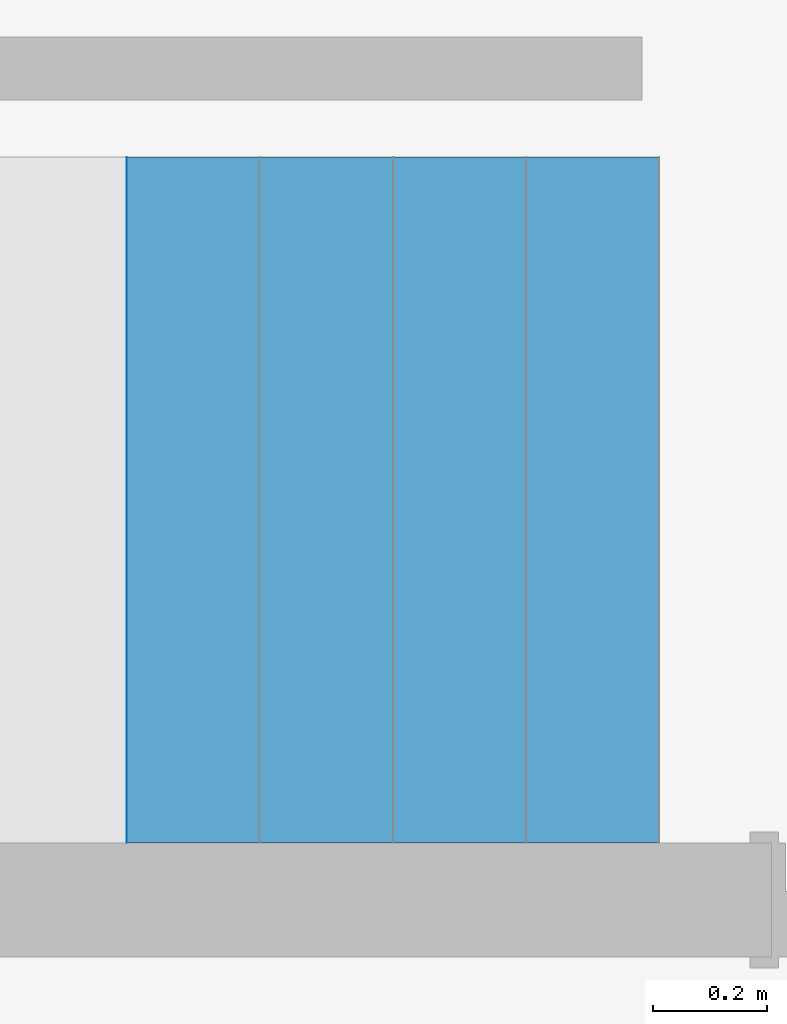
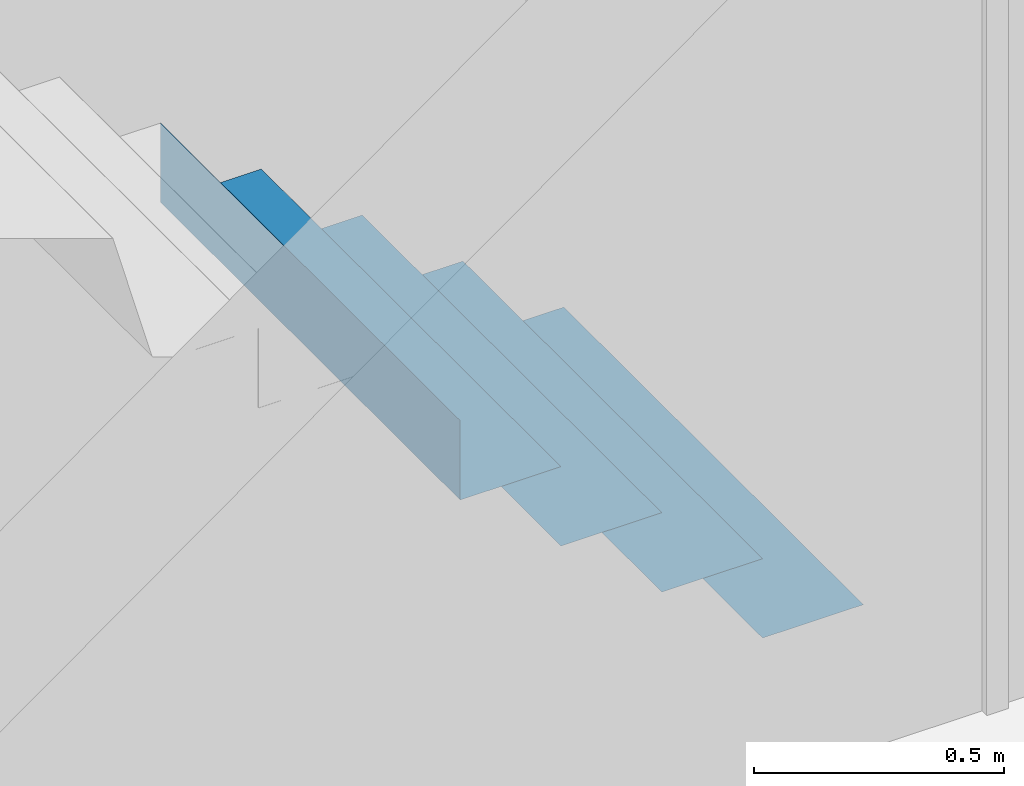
# One storey, part 20 of 25: 5 building element parts, 1 element without a shape of its own.
"""IFC2X3 building model written with IfcOpenShell, lengths in millimetres."""

from ifc_helpers import new_model, entity, si_unit, converted_unit, derived_unit, money_unit, direction, frame, origin_with_axes, place, context, subcontext, project, spatial, open_shell, surface_model, element, aggregate, save


model = new_model("IFC2X3")

# Units and contexts
model_context = context("Model", 3, precision=0.01, world=origin_with_axes(), true_north=direction((0.0, 1.0)))
body_context = subcontext(model_context, "Body", "Model", "MODEL_VIEW")
ifc_project = project(units=[si_unit("LENGTHUNIT", "METRE", prefix="MILLI"), si_unit("AREAUNIT", "SQUARE_METRE"), si_unit("VOLUMEUNIT", "CUBIC_METRE"), converted_unit("PLANEANGLEUNIT", "DEGREE", entity("IfcPlaneAngleMeasure", 0.0174532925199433), si_unit("PLANEANGLEUNIT", "RADIAN"), dimensions=[0, 0, 0, 0, 0, 0, 0]), money_unit("USD"), converted_unit("TIMEUNIT", "Year", entity("IfcTimeMeasure", 31557600.0), si_unit("TIMEUNIT", "SECOND"), dimensions=[0, 0, 1, 0, 0, 0, 0]), si_unit("MASSUNIT", "GRAM", prefix="KILO"), si_unit("THERMODYNAMICTEMPERATUREUNIT", "DEGREE_CELSIUS"), si_unit("LUMINOUSINTENSITYUNIT", "LUMEN"), si_unit("ENERGYUNIT", "JOULE", prefix="MEGA"), derived_unit("THERMALCONDUCTANCEUNIT", [(si_unit("POWERUNIT", "WATT"), 1), (si_unit("LENGTHUNIT", "METRE"), -1), (si_unit("THERMODYNAMICTEMPERATUREUNIT", "KELVIN"), -1)]), derived_unit("SPECIFICHEATCAPACITYUNIT", [(si_unit("ENERGYUNIT", "JOULE"), 1), (si_unit("MASSUNIT", "GRAM", prefix="KILO"), -1), (si_unit("THERMODYNAMICTEMPERATUREUNIT", "KELVIN"), -1)]), derived_unit("MASSDENSITYUNIT", [(si_unit("MASSUNIT", "GRAM", prefix="KILO"), 1), (si_unit("VOLUMEUNIT", "CUBIC_METRE"), -1)])], contexts=[model_context])

# Site, building, storey
site_placement = place(None, origin_with_axes())
site = spatial("IfcSite", under=ifc_project, at=site_placement, Name="Site", CompositionType="ELEMENT")
building_placement = place(site_placement, origin_with_axes())
building = spatial("IfcBuilding", under=site, at=building_placement, Name="Building", CompositionType="ELEMENT")
storey_placement = place(building_placement, origin_with_axes())
storey = spatial("IfcBuildingStorey", under=building, at=storey_placement, Name="U ETG", CompositionType="ELEMENT", Elevation=0.0)

# Stair, building element parts
stair_placement = place(storey_placement, frame((59283.68594210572, 14599.87497638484, 0.0), z_axis=(0.0, 0.0, 1.0), x_axis=(1.0, 0.0, 0.0)))
stair = element("IfcStair", 1, at=stair_placement, inside=storey, Name="STAIR - 001", ShapeType="NOTDEFINED")
building_element_part_1_placement = place(stair_placement, origin_with_axes())
building_element_part_1 = element("IfcBuildingElementPart", 2, at=building_element_part_1_placement, context=body_context, shape_type="SurfaceModel", body=[
    surface_model("IfcShellBasedSurfaceModel", [(4717.454235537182, 0.0, 970.5882352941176), (4717.454235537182, 1199.999999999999, 970.5882352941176), (4717.454235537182, 1199.999999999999, 776.470588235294), (4717.454235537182, 0.0, 776.470588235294)], [open_shell([[[0, 1, 2, 3]]])]),
])
building_element_part_2_placement = place(stair_placement, origin_with_axes())
building_element_part_2 = element("IfcBuildingElementPart", 3, at=building_element_part_2_placement, context=body_context, shape_type="SurfaceModel", body=[
    surface_model("IfcShellBasedSurfaceModel", [(5416.863558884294, 0.0, 388.235294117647), (5183.727117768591, 0.0, 388.235294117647), (5183.727117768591, 1199.999999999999, 388.235294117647), (5416.863558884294, 1199.999999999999, 388.235294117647)], [open_shell([[[0, 1, 2, 3]]])]),
])
building_element_part_3_placement = place(stair_placement, origin_with_axes())
building_element_part_3 = element("IfcBuildingElementPart", 4, at=building_element_part_3_placement, context=body_context, shape_type="SurfaceModel", body=[
    surface_model("IfcShellBasedSurfaceModel", [(5649.999999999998, 0.0, 194.1176470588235), (5416.863558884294, 0.0, 194.1176470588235), (5416.863558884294, 1199.999999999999, 194.1176470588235), (5649.999999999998, 1199.999999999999, 194.1176470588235)], [open_shell([[[0, 1, 2, 3]]])]),
])
building_element_part_4_placement = place(stair_placement, origin_with_axes())
building_element_part_4 = element("IfcBuildingElementPart", 5, at=building_element_part_4_placement, context=body_context, shape_type="SurfaceModel", body=[
    surface_model("IfcShellBasedSurfaceModel", [(5183.727117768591, 0.0, 582.3529411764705), (4950.590676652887, 0.0, 582.3529411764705), (4950.590676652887, 1199.999999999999, 582.3529411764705), (5183.727117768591, 1199.999999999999, 582.3529411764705)], [open_shell([[[0, 1, 2, 3]]])]),
])
building_element_part_5_placement = place(stair_placement, origin_with_axes())
building_element_part_5 = element("IfcBuildingElementPart", 6, at=building_element_part_5_placement, context=body_context, shape_type="SurfaceModel", body=[
    surface_model("IfcShellBasedSurfaceModel", [(4950.590676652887, 0.0, 776.470588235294), (4717.454235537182, 0.0, 776.470588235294), (4717.454235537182, 1199.999999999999, 776.470588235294), (4950.590676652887, 1199.999999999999, 776.470588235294)], [open_shell([[[0, 1, 2, 3]]])]),
])
aggregate(stair, [building_element_part_1, building_element_part_2, building_element_part_3, building_element_part_4, building_element_part_5])

save(model, "model.ifc")
